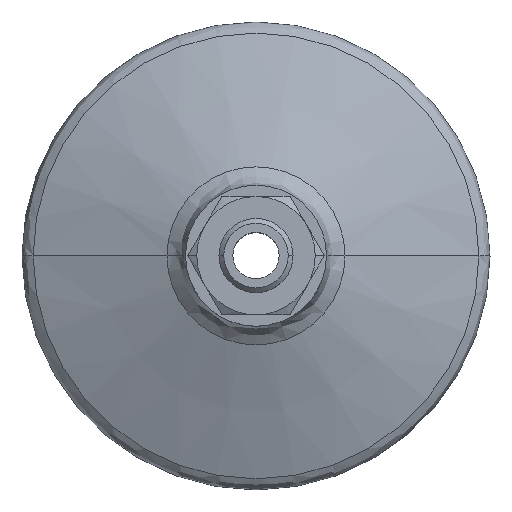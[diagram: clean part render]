
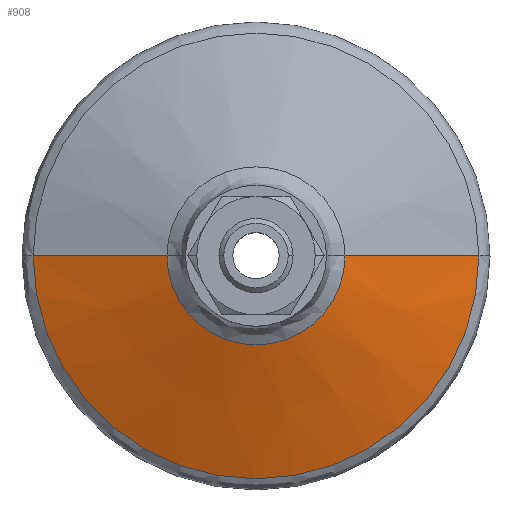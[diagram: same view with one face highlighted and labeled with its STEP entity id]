
A CAD part, top view. The second image highlights one B-rep face of the part: STEP entity #908.
In plain terms, the highlighted conical face has half-angle 70 degrees and reference radius 39.526 mm.
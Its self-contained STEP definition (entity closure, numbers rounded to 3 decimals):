
#149 = AXIS2_PLACEMENT_3D ( 'NONE', #1858, #1851, #1908 ) ;
#179 = VECTOR ( 'NONE', #979, 1000. ) ;
#585 = CARTESIAN_POINT ( 'NONE',  ( 39.526, 0., 22.322 ) ) ;
#723 = EDGE_LOOP ( 'NONE', ( #1379, #1063, #1943, #1999 ) ) ;
#908 = ADVANCED_FACE ( 'NONE', ( #1548 ), #1643, .T. ) ;
#911 = VERTEX_POINT ( 'NONE', #1968 ) ;
#961 = CARTESIAN_POINT ( 'NONE',  ( -39.526, 0., 22.322 ) ) ;
#979 = DIRECTION ( 'NONE',  ( -0.94, 0., -0.342 ) ) ;
#988 = CIRCLE ( 'NONE', #149, 15.79 ) ;
#1012 = LINE ( 'NONE', #585, #1129 ) ;
#1063 = ORIENTED_EDGE ( 'NONE', *, *, #1790, .T. ) ;
#1129 = VECTOR ( 'NONE', #2212, 1000. ) ;
#1190 = EDGE_CURVE ( 'NONE', #911, #1919, #1957, .T. ) ;
#1312 = EDGE_CURVE ( 'NONE', #1592, #1919, #1928, .T. ) ;
#1379 = ORIENTED_EDGE ( 'NONE', *, *, #1773, .F. ) ;
#1397 = CARTESIAN_POINT ( 'NONE',  ( 0., 0., 22.322 ) ) ;
#1402 = DIRECTION ( 'NONE',  ( 0., 0., -1. ) ) ;
#1413 = DIRECTION ( 'NONE',  ( 1., 0., 0. ) ) ;
#1445 = CARTESIAN_POINT ( 'NONE',  ( -15.79, 0., 30.961 ) ) ;
#1548 = FACE_OUTER_BOUND ( 'NONE', #723, .T. ) ;
#1551 = AXIS2_PLACEMENT_3D ( 'NONE', #1397, #1402, #1413 ) ;
#1592 = VERTEX_POINT ( 'NONE', #1445 ) ;
#1643 = CONICAL_SURFACE ( 'NONE', #2061, 39.526, 1.222 ) ;
#1671 = DIRECTION ( 'NONE',  ( -1., 0., 0. ) ) ;
#1700 = DIRECTION ( 'NONE',  ( 0., 0., -1. ) ) ;
#1710 = CARTESIAN_POINT ( 'NONE',  ( 0., 0., 22.322 ) ) ;
#1727 = VERTEX_POINT ( 'NONE', #2089 ) ;
#1773 = EDGE_CURVE ( 'NONE', #1727, #911, #1012, .T. ) ;
#1790 = EDGE_CURVE ( 'NONE', #1727, #1592, #988, .T. ) ;
#1851 = DIRECTION ( 'NONE',  ( 0., 0., -1. ) ) ;
#1858 = CARTESIAN_POINT ( 'NONE',  ( 0., 0., 30.961 ) ) ;
#1908 = DIRECTION ( 'NONE',  ( -0.5, -0.866, 0. ) ) ;
#1919 = VERTEX_POINT ( 'NONE', #2241 ) ;
#1928 = LINE ( 'NONE', #961, #179 ) ;
#1943 = ORIENTED_EDGE ( 'NONE', *, *, #1312, .T. ) ;
#1957 = CIRCLE ( 'NONE', #1551, 39.526 ) ;
#1968 = CARTESIAN_POINT ( 'NONE',  ( 39.526, 0., 22.322 ) ) ;
#1999 = ORIENTED_EDGE ( 'NONE', *, *, #1190, .F. ) ;
#2061 = AXIS2_PLACEMENT_3D ( 'NONE', #1710, #1700, #1671 ) ;
#2089 = CARTESIAN_POINT ( 'NONE',  ( 15.79, 0., 30.961 ) ) ;
#2212 = DIRECTION ( 'NONE',  ( 0.94, 0., -0.342 ) ) ;
#2241 = CARTESIAN_POINT ( 'NONE',  ( -39.526, 0., 22.322 ) ) ;
